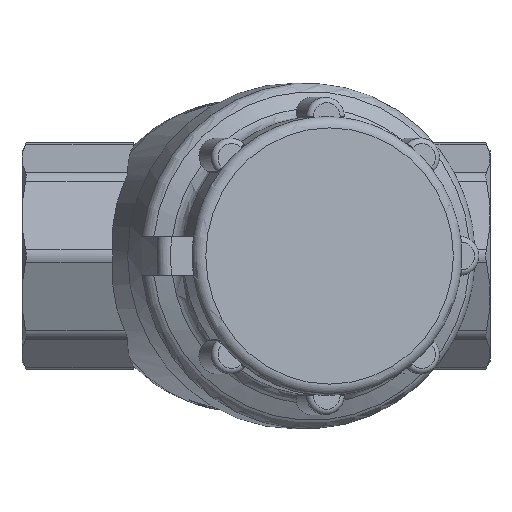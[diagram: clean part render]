
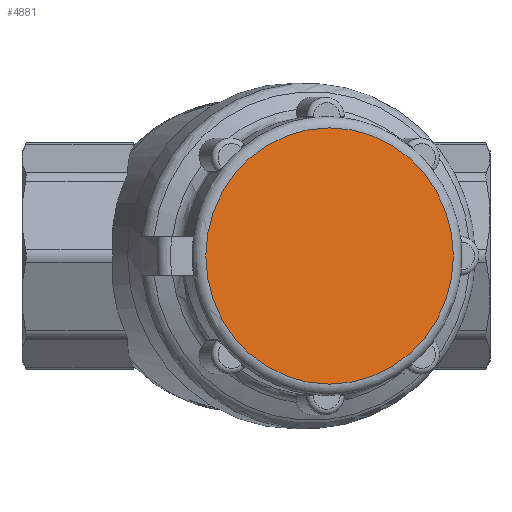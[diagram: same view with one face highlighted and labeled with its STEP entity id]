
A CAD part, front view. The second image highlights one B-rep face of the part: STEP entity #4881.
In plain terms, the highlighted planar face has unit normal (0.259, -0.966, 0).
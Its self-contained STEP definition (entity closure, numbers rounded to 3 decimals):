
#173=PLANE('',#5367);
#435=FACE_OUTER_BOUND('',#726,.T.);
#726=EDGE_LOOP('',(#3973,#3974));
#970=CIRCLE('',#5368,23.);
#971=CIRCLE('',#5369,23.);
#2151=VERTEX_POINT('',#10172);
#2152=VERTEX_POINT('',#10173);
#2817=EDGE_CURVE('',#2151,#2152,#970,.T.);
#2818=EDGE_CURVE('',#2152,#2151,#971,.T.);
#3973=ORIENTED_EDGE('',*,*,#2817,.F.);
#3974=ORIENTED_EDGE('',*,*,#2818,.F.);
#4881=ADVANCED_FACE('',(#435),#173,.T.);
#5367=AXIS2_PLACEMENT_3D('',#10171,#6447,#6448);
#5368=AXIS2_PLACEMENT_3D('',#10174,#6449,#6450);
#5369=AXIS2_PLACEMENT_3D('',#10175,#6451,#6452);
#6447=DIRECTION('center_axis',(0.259,-0.966,0.));
#6448=DIRECTION('ref_axis',(0.,0.,-1.));
#6449=DIRECTION('center_axis',(-0.259,0.966,0.));
#6450=DIRECTION('ref_axis',(0.966,0.259,0.));
#6451=DIRECTION('center_axis',(-0.259,0.966,0.));
#6452=DIRECTION('ref_axis',(0.966,0.259,0.));
#10171=CARTESIAN_POINT('Origin',(-6.852,-63.294,0.));
#10172=CARTESIAN_POINT('',(37.581,-51.388,0.));
#10173=CARTESIAN_POINT('',(15.365,-57.341,-23.));
#10174=CARTESIAN_POINT('Origin',(15.365,-57.341,0.));
#10175=CARTESIAN_POINT('Origin',(15.365,-57.341,0.));
